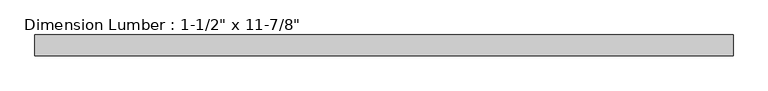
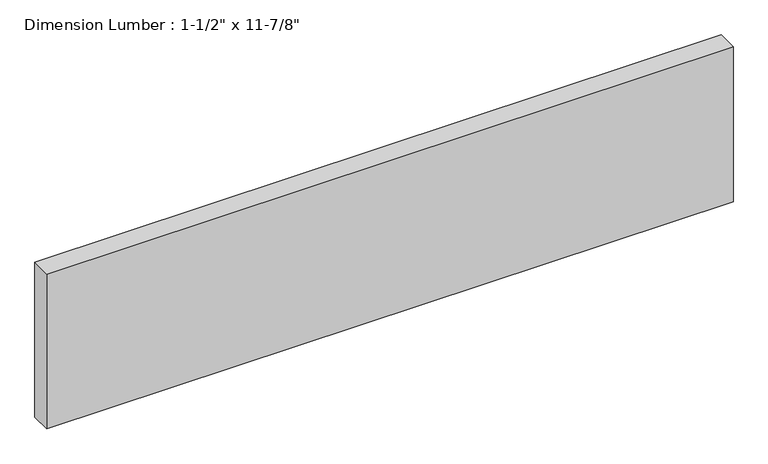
"""IFC4 building model written with IfcOpenShell, lengths in millimetres: beam geometry."""

from ifc_helpers import new_model, si_unit, frame, origin, place, context, project, spatial, polyline, outline, extrude, source, transform, mapped, element, save


def beam_4e3e4873(model_context):
    return source(origin(), model_context, "Body", "SweptSolid", [
        extrude(outline(polyline([(654.05, 19.05), (654.05, -19.05), (-609.6, -19.05), (-609.6, 19.05), (654.05, 19.05)])), frame((0.0, 0.0, -150.8125), z_axis=(0.0, 0.0, 1.0), x_axis=(1.0, 0.0, 0.0)), (0.0, 0.0, 1.0), 301.625),
    ])


if __name__ == "__main__":
    model = new_model("IFC4")
    model_context = context("Model", 3, world=origin())
    ifc_project = project(units=[si_unit("LENGTHUNIT", "METRE", prefix="MILLI")], contexts=[model_context])
    site = spatial("IfcSite", under=ifc_project)
    building = spatial("IfcBuilding", under=site)
    placement = place(None, origin())
    beam_shape = beam_4e3e4873(model_context)
    element("IfcBeam", 1, ObjectType="Dimension Lumber : 1-1/2\" x 11-7/8\"", at=placement, inside=building, context=model_context, shape_type="MappedRepresentation", body=[
        mapped(beam_shape, transform((0.0, 0.0, 0.0), x_axis=(1.0, 0.0, 0.0), y_axis=(0.0, 1.0, 0.0), z_axis=(0.0, 0.0, 1.0))),
    ])
    save(model, "model.ifc")
